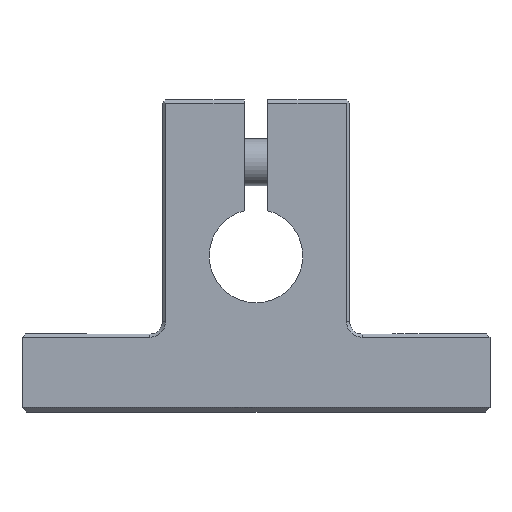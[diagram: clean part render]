
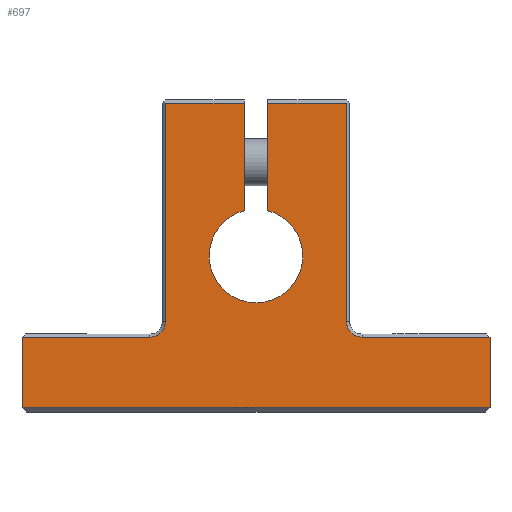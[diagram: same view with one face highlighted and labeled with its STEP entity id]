
A CAD part, left-side view. The second image highlights one B-rep face of the part: STEP entity #697.
In plain terms, the highlighted planar face has unit normal (-1, 0, 0).
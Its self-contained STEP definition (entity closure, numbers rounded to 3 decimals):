
#441=CARTESIAN_POINT('',(0.0,-15.0,-9.7));
#442=VERTEX_POINT('',#441);
#443=CARTESIAN_POINT('',(0.0,15.0,-9.7));
#444=VERTEX_POINT('',#443);
#445=CARTESIAN_POINT('',(0.0,-15.0,-9.7));
#446=DIRECTION('',(0.0,1.0,0.0));
#447=VECTOR('',#446,30.0);
#448=LINE('',#445,#447);
#449=EDGE_CURVE('',#442,#444,#448,.T.);
#566=CARTESIAN_POINT('',(0.0,15.0,-5.2));
#567=VERTEX_POINT('',#566);
#568=CARTESIAN_POINT('',(0.0,15.0,-9.7));
#569=DIRECTION('',(0.0,0.0,1.0));
#570=VECTOR('',#569,4.5);
#571=LINE('',#568,#570);
#572=EDGE_CURVE('',#444,#567,#571,.T.);
#591=CARTESIAN_POINT('',(0.0,0.,-1.483));
#592=DIRECTION('',(1.0,0.0,0.0));
#593=DIRECTION('',(0.0,0.0,-1.0));
#594=AXIS2_PLACEMENT_3D('',#591,#592,#593);
#595=PLANE('',#594);
#596=ORIENTED_EDGE('',*,*,#449,.F.);
#597=CARTESIAN_POINT('',(0.0,-15.0,-5.2));
#598=VERTEX_POINT('',#597);
#599=CARTESIAN_POINT('',(0.0,-15.0,-5.2));
#600=DIRECTION('',(0.0,0.0,-1.0));
#601=VECTOR('',#600,4.5);
#602=LINE('',#599,#601);
#603=EDGE_CURVE('',#598,#442,#602,.T.);
#604=ORIENTED_EDGE('',*,*,#603,.F.);
#605=CARTESIAN_POINT('',(0.0,-6.8,-5.2));
#606=VERTEX_POINT('',#605);
#607=CARTESIAN_POINT('',(0.0,-6.8,-5.2));
#608=DIRECTION('',(0.0,-1.0,0.0));
#609=VECTOR('',#608,8.2);
#610=LINE('',#607,#609);
#611=EDGE_CURVE('',#606,#598,#610,.T.);
#612=ORIENTED_EDGE('',*,*,#611,.F.);
#613=CARTESIAN_POINT('',(0.0,-5.8,-4.2));
#614=VERTEX_POINT('',#613);
#615=CARTESIAN_POINT('',(0.0,-6.8,-4.2));
#616=DIRECTION('',(-1.0,0.0,0.0));
#617=DIRECTION('',(0.0,0.707,-0.707));
#618=AXIS2_PLACEMENT_3D('',#615,#616,#617);
#619=CIRCLE('',#618,1.);
#620=EDGE_CURVE('',#614,#606,#619,.T.);
#621=ORIENTED_EDGE('',*,*,#620,.F.);
#622=CARTESIAN_POINT('',(0.0,-5.8,9.8));
#623=VERTEX_POINT('',#622);
#624=CARTESIAN_POINT('',(0.0,-5.8,9.8));
#625=DIRECTION('',(0.0,0.0,-1.0));
#626=VECTOR('',#625,14.0);
#627=LINE('',#624,#626);
#628=EDGE_CURVE('',#623,#614,#627,.T.);
#629=ORIENTED_EDGE('',*,*,#628,.F.);
#630=CARTESIAN_POINT('',(0.0,-0.75,9.8));
#631=VERTEX_POINT('',#630);
#632=CARTESIAN_POINT('',(0.0,-0.75,9.8));
#633=DIRECTION('',(0.0,-1.0,0.0));
#634=VECTOR('',#633,5.05);
#635=LINE('',#632,#634);
#636=EDGE_CURVE('',#631,#623,#635,.T.);
#637=ORIENTED_EDGE('',*,*,#636,.F.);
#638=CARTESIAN_POINT('',(0.0,-0.75,2.905));
#639=VERTEX_POINT('',#638);
#640=CARTESIAN_POINT('',(0.0,-0.75,2.905));
#641=DIRECTION('',(0.0,0.0,1.0));
#642=VECTOR('',#641,6.895);
#643=LINE('',#640,#642);
#644=EDGE_CURVE('',#639,#631,#643,.T.);
#645=ORIENTED_EDGE('',*,*,#644,.F.);
#646=CARTESIAN_POINT('',(0.0,0.75,2.905));
#647=VERTEX_POINT('',#646);
#648=CARTESIAN_POINT('',(0.0,0.0,0.0));
#649=DIRECTION('',(-1.0,0.0,0.0));
#650=DIRECTION('',(0.0,-1.0,0.0));
#651=AXIS2_PLACEMENT_3D('',#648,#649,#650);
#652=CIRCLE('',#651,3.);
#653=EDGE_CURVE('',#647,#639,#652,.T.);
#654=ORIENTED_EDGE('',*,*,#653,.F.);
#655=CARTESIAN_POINT('',(0.0,0.75,9.8));
#656=VERTEX_POINT('',#655);
#657=CARTESIAN_POINT('',(0.0,0.75,9.8));
#658=DIRECTION('',(0.0,0.0,-1.0));
#659=VECTOR('',#658,6.895);
#660=LINE('',#657,#659);
#661=EDGE_CURVE('',#656,#647,#660,.T.);
#662=ORIENTED_EDGE('',*,*,#661,.F.);
#663=CARTESIAN_POINT('',(0.0,5.8,9.8));
#664=VERTEX_POINT('',#663);
#665=CARTESIAN_POINT('',(0.0,5.8,9.8));
#666=DIRECTION('',(0.0,-1.0,0.0));
#667=VECTOR('',#666,5.05);
#668=LINE('',#665,#667);
#669=EDGE_CURVE('',#664,#656,#668,.T.);
#670=ORIENTED_EDGE('',*,*,#669,.F.);
#671=CARTESIAN_POINT('',(0.0,5.8,-4.2));
#672=VERTEX_POINT('',#671);
#673=CARTESIAN_POINT('',(0.0,5.8,-4.2));
#674=DIRECTION('',(0.0,0.0,1.0));
#675=VECTOR('',#674,14.0);
#676=LINE('',#673,#675);
#677=EDGE_CURVE('',#672,#664,#676,.T.);
#678=ORIENTED_EDGE('',*,*,#677,.F.);
#679=CARTESIAN_POINT('',(0.0,6.8,-5.2));
#680=VERTEX_POINT('',#679);
#681=CARTESIAN_POINT('',(0.0,6.8,-4.2));
#682=DIRECTION('',(-1.,0.0,0.0));
#683=DIRECTION('',(0.0,-0.707,-0.707));
#684=AXIS2_PLACEMENT_3D('',#681,#682,#683);
#685=CIRCLE('',#684,1.);
#686=EDGE_CURVE('',#680,#672,#685,.T.);
#687=ORIENTED_EDGE('',*,*,#686,.F.);
#688=CARTESIAN_POINT('',(0.0,15.0,-5.2));
#689=DIRECTION('',(0.0,-1.0,0.0));
#690=VECTOR('',#689,8.2);
#691=LINE('',#688,#690);
#692=EDGE_CURVE('',#567,#680,#691,.T.);
#693=ORIENTED_EDGE('',*,*,#692,.F.);
#694=ORIENTED_EDGE('',*,*,#572,.F.);
#695=EDGE_LOOP('',(#596,#604,#612,#621,#629,#637,#645,#654,#662,#670,#678,#687,#693,#694));
#696=FACE_OUTER_BOUND('',#695,.T.);
#697=ADVANCED_FACE('',(#696),#595,.F.);
